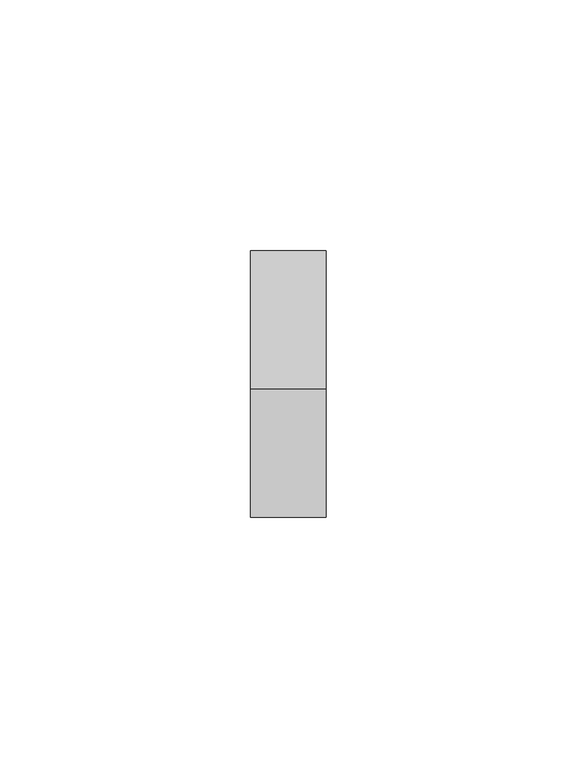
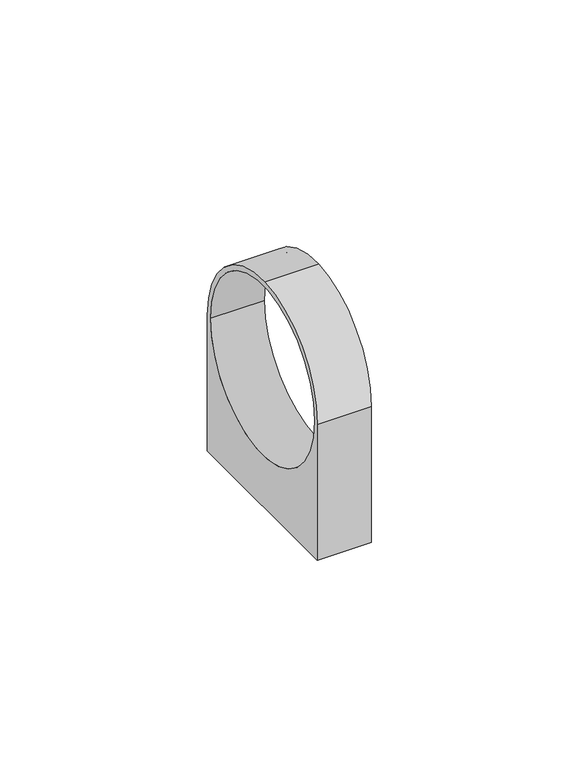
"""IFC4 building model written with IfcOpenShell, lengths in millimetres: cable carrier fitting geometry, Хомутный держатель CFC : CTA10D-CFC50-K41-025."""

from ifc_helpers import new_model, si_unit, point, frame, origin, origin_2d, place, context, project, spatial, polyline, circle_curve, trimmed, segment, composite_curve, outline, extrude, source, transform, mapped, element, save


def cable_carrier_fitting_301d3040(model_context):
    return source(origin(), model_context, "Body", "SweptSolid", [
        extrude(outline(composite_curve([segment(polyline([(-26.5, -40.0), (-26.5, 0.0)]), True, "CONTINUOUS"), segment(trimmed(circle_curve(origin_2d(), 26.5), [point((-26.5, 0.0))], [point((-1.0483988, 26.4792534))], False, "CARTESIAN"), True, "CONTINUOUS"), segment(trimmed(circle_curve(origin_2d(), 26.5), [point((-1.0483988, 26.4792534))], [point((26.5, 0.0))], False, "CARTESIAN"), True, "CONTINUOUS"), segment(polyline([(26.5, 0.0), (26.5, -40.0), (-26.5, -40.0)]), True, "CONTINUOUS")], self_intersect=False), holes=[composite_curve([segment(trimmed(circle_curve(origin_2d(), 25.0), [point((-25.0, 0.0))], [point((25.0, 0.0))], True, "CARTESIAN"), True, "CONTINUOUS"), segment(trimmed(circle_curve(origin_2d(), 25.0), [point((25.0, 0.0))], [point((-25.0, 0.0))], True, "CARTESIAN"), True, "CONTINUOUS")], self_intersect=False)]), frame((-7.5, 0.0, 0.0), z_axis=(1.0, 0.0, 0.0), x_axis=(0.0, 1.0, 0.0)), (0.0, 0.0, 1.0), 15.0),
    ])


if __name__ == "__main__":
    model = new_model("IFC4")
    model_context = context("Model", 3, world=origin())
    ifc_project = project(units=[si_unit("LENGTHUNIT", "METRE", prefix="MILLI")], contexts=[model_context])
    site = spatial("IfcSite", under=ifc_project)
    building = spatial("IfcBuilding", under=site)
    placement = place(None, origin())
    cable_carrier_fitting_shape = cable_carrier_fitting_301d3040(model_context)
    element("IfcCableCarrierFitting", 1, ObjectType="Хомутный держатель CFC : CTA10D-CFC50-K41-025", at=placement, inside=building, context=model_context, shape_type="MappedRepresentation", body=[
        mapped(cable_carrier_fitting_shape, transform((0.0, 0.0, 0.0), x_axis=(1.0, 0.0, 0.0), y_axis=(0.0, 1.0, 0.0), z_axis=(0.0, 0.0, 1.0))),
    ])
    save(model, "model.ifc")
